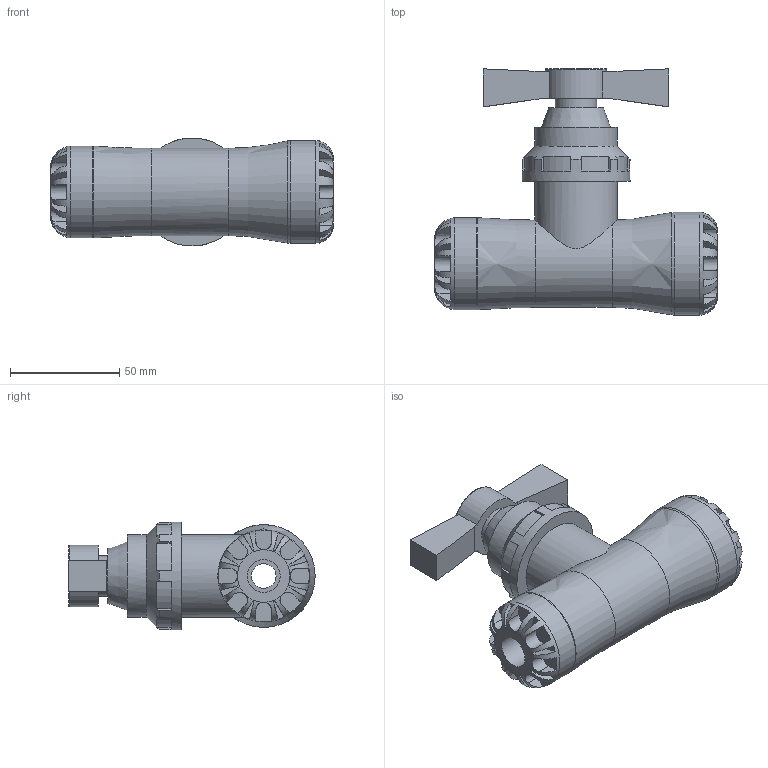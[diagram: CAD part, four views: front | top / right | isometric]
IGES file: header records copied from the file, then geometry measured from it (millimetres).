
Global section: file name: 0341C0025015.ipt; native system: Autodesk Inventor 2015; preprocessor: unknown; author: KIM; date: 20170212.115612; units: millimetre
Bounding box: 129 x 112.5 x 49.33 mm (x, y, z)
Volume: 218883.6 mm3; surface area: 42367 mm2
Topology: 1 solids, 1 shells, 204 faces, 544 edges, 348 vertices
Faces by surface type: plane 143, cylinder 32, revolution 27, cone 2
Full cylindrical faces by diameter (mm): 18.8 x1, 28.2 x1, 37.6 x2, 42 x1, 47 x1, 49.35 x1
